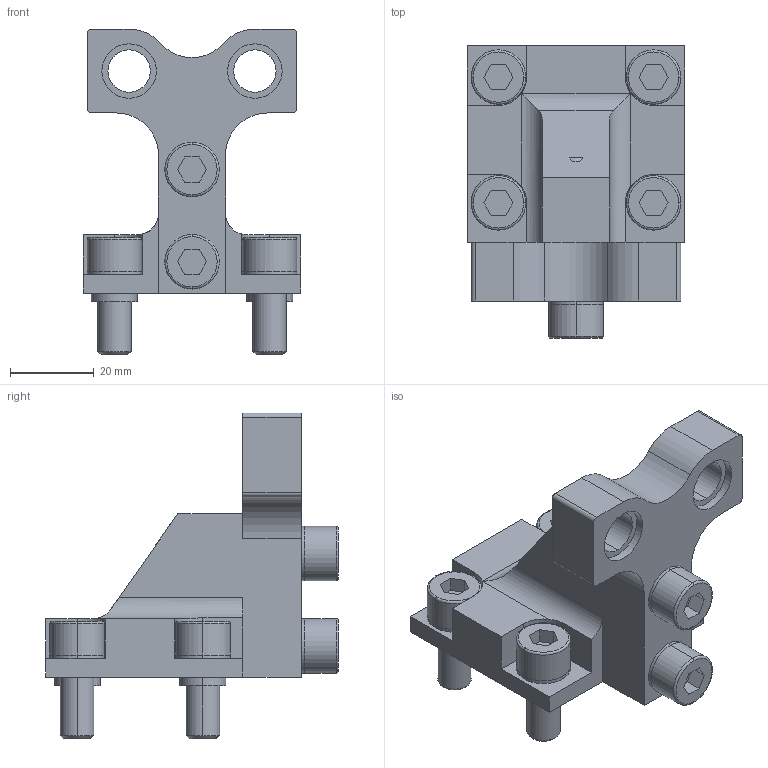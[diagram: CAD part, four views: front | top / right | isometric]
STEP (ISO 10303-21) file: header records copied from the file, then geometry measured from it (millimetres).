
FILE_DESCRIPTION (( 'STEP AP214' ), '1' );
FILE_NAME ('867.1-52-M12-Z-NC.step', '2023-08-01T13:22:27', ( '' ), ( '' ), 'SwSTEP 2.0', 'SolidWorks 2022', '' );
FILE_SCHEMA (( 'AUTOMOTIVE_DESIGN' ));
Length unit declared in the file: millimetre
Products named in the file (1): 867.1-52-M12-Z-NC
Bounding box: 52 x 69.8 x 77.7 mm (x, y, z)
Volume: 65824.7 mm3; surface area: 19954.5 mm2
Topology: 1 solids, 3 shells, 202 faces, 475 edges, 310 vertices
Faces by surface type: plane 104, cylinder 77, torus 12, cone 9
Entity records: 7350 total; most frequent: DIRECTION 1052, CARTESIAN_POINT 1039, ORIENTED_EDGE 950, EDGE_CURVE 475, AXIS2_PLACEMENT_3D 387, VERTEX_POINT 310, LINE 278, VECTOR 278
